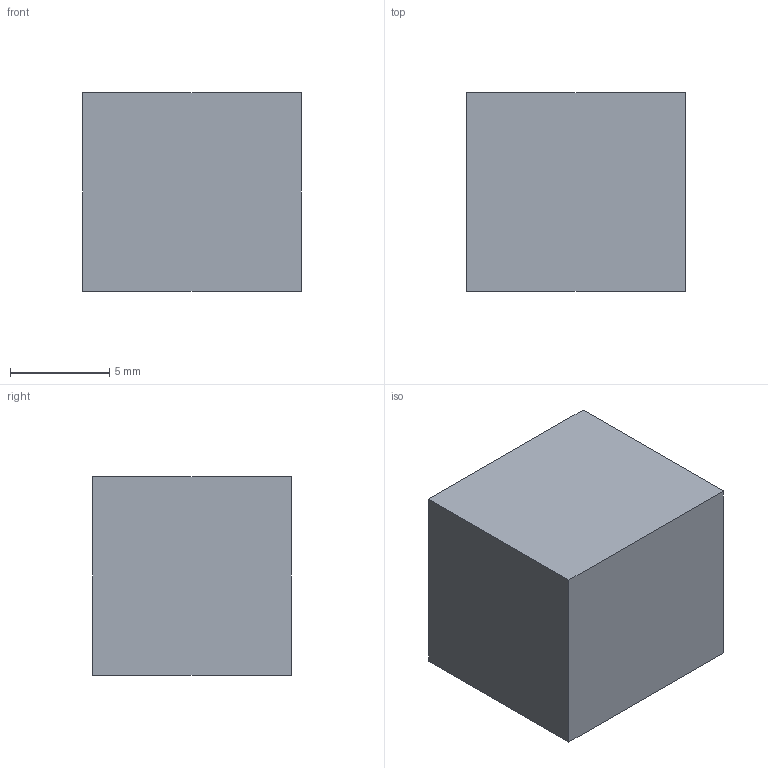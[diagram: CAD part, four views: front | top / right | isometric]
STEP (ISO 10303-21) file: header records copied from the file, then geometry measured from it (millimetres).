
FILE_DESCRIPTION(('FreeCAD Model'),'2;1');
FILE_NAME('Open CASCADE Shape Model','2023-05-19T13:28:00',('Author'),( ''),'Open CASCADE STEP processor 7.6','FreeCAD','Unknown');
FILE_SCHEMA(('AUTOMOTIVE_DESIGN { 1 0 10303 214 1 1 1 1 }'));
Length unit declared in the file: millimetre
Products named in the file (1): Document
Bounding box: 11 x 10 x 10 mm (x, y, z)
Volume: 1100 mm3; surface area: 640 mm2
Topology: 1 solids, 1 shells, 6 faces, 12 edges, 8 vertices
Faces by surface type: plane 6
Entity records: 314 total; most frequent: CARTESIAN_POINT 87, B_SPLINE_CURVE_WITH_KNOTS 36, ORIENTED_EDGE 24, PCURVE 24, DEFINITIONAL_REPRESENTATION 24, DIRECTION 14, EDGE_CURVE 12, SURFACE_CURVE 12
